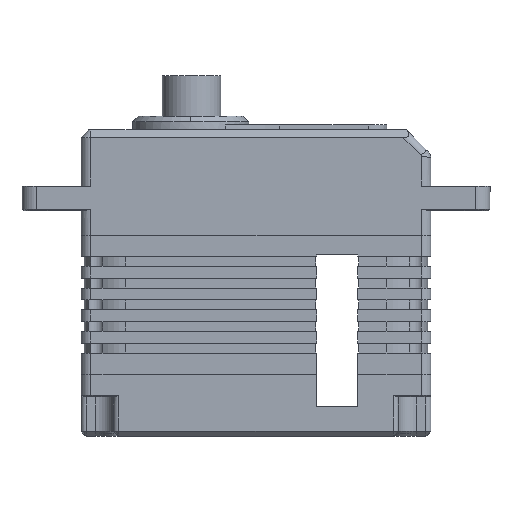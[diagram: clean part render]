
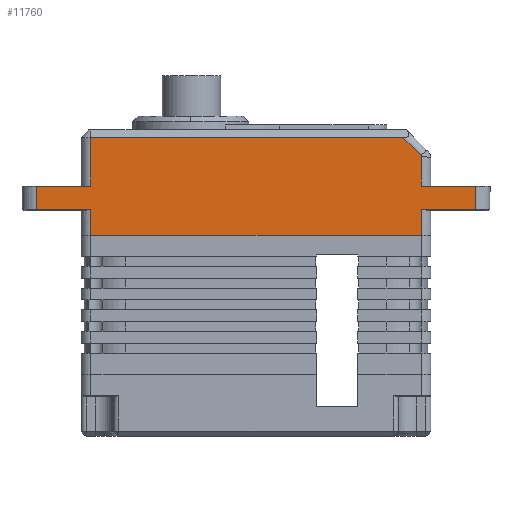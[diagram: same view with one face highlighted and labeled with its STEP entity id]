
A CAD part, front view. The second image highlights one B-rep face of the part: STEP entity #11760.
In plain terms, the highlighted planar face has unit normal (0, -1, 0).
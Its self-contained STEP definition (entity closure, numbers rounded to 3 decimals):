
#206 = LINE ( 'NONE', #1460, #6149 ) ;
#228 = ORIENTED_EDGE ( 'NONE', *, *, #12100, .F. ) ;
#496 = CARTESIAN_POINT ( 'NONE',  ( -1.2, -13.8, 4.35 ) ) ;
#825 = LINE ( 'NONE', #18666, #12551 ) ;
#881 = CARTESIAN_POINT ( 'NONE',  ( -1.2, -13.8, 6.7 ) ) ;
#1036 = LINE ( 'NONE', #3179, #16184 ) ;
#1460 = CARTESIAN_POINT ( 'NONE',  ( -0.2, -13.8, 1.7 ) ) ;
#1669 = VERTEX_POINT ( 'NONE', #15306 ) ;
#1699 = AXIS2_PLACEMENT_3D ( 'NONE', #3877, #6621, #14143 ) ;
#1993 = CARTESIAN_POINT ( 'NONE',  ( 33.3, -13.8, 6.7 ) ) ;
#2281 = DIRECTION ( 'NONE',  ( 0.707, 0., -0.707 ) ) ;
#2294 = LINE ( 'NONE', #3989, #13559 ) ;
#2938 = LINE ( 'NONE', #5233, #18475 ) ;
#3075 = DIRECTION ( 'NONE',  ( 0., 0., 1. ) ) ;
#3087 = VERTEX_POINT ( 'NONE', #13032 ) ;
#3179 = CARTESIAN_POINT ( 'NONE',  ( -1.2, -13.8, 6.7 ) ) ;
#3515 = VECTOR ( 'NONE', #2281, 1000. ) ;
#3694 = CARTESIAN_POINT ( 'NONE',  ( 31.469, -13.8, 11.6 ) ) ;
#3877 = CARTESIAN_POINT ( 'NONE',  ( -1.2, -13.8, 1.7 ) ) ;
#3913 = LINE ( 'NONE', #13446, #11988 ) ;
#3919 = EDGE_CURVE ( 'NONE', #15783, #17737, #206, .T. ) ;
#3989 = CARTESIAN_POINT ( 'NONE',  ( -1.2, -13.8, 11.6 ) ) ;
#4069 = DIRECTION ( 'NONE',  ( 0., 0., -1. ) ) ;
#4097 = DIRECTION ( 'NONE',  ( 0., 0., 1. ) ) ;
#4558 = EDGE_CURVE ( 'NONE', #16882, #10774, #18011, .T. ) ;
#4583 = EDGE_CURVE ( 'NONE', #14665, #15433, #825, .T. ) ;
#4607 = VERTEX_POINT ( 'NONE', #18470 ) ;
#4644 = DIRECTION ( 'NONE',  ( -1., 0., 0. ) ) ;
#5156 = VERTEX_POINT ( 'NONE', #1993 ) ;
#5233 = CARTESIAN_POINT ( 'NONE',  ( 38.8, -13.8, 1.7 ) ) ;
#5343 = LINE ( 'NONE', #3694, #3515 ) ;
#5547 = ORIENTED_EDGE ( 'NONE', *, *, #13418, .F. ) ;
#5561 = CARTESIAN_POINT ( 'NONE',  ( 33.3, -13.8, 1.7 ) ) ;
#5635 = VECTOR ( 'NONE', #14228, 1000. ) ;
#5795 = CARTESIAN_POINT ( 'NONE',  ( 38.8, -13.8, 4.35 ) ) ;
#6149 = VECTOR ( 'NONE', #3075, 1000. ) ;
#6332 = ORIENTED_EDGE ( 'NONE', *, *, #13331, .F. ) ;
#6621 = DIRECTION ( 'NONE',  ( 0., 1., 0. ) ) ;
#6672 = DIRECTION ( 'NONE',  ( 0., 0., -1. ) ) ;
#6829 = ORIENTED_EDGE ( 'NONE', *, *, #4558, .F. ) ;
#6883 = LINE ( 'NONE', #5561, #18807 ) ;
#8175 = VECTOR ( 'NONE', #15880, 1000. ) ;
#8464 = VERTEX_POINT ( 'NONE', #5795 ) ;
#8484 = ORIENTED_EDGE ( 'NONE', *, *, #13783, .F. ) ;
#8671 = ORIENTED_EDGE ( 'NONE', *, *, #13967, .F. ) ;
#8761 = CARTESIAN_POINT ( 'NONE',  ( -1.2, -13.8, 1.7 ) ) ;
#8966 = EDGE_CURVE ( 'NONE', #17737, #3087, #2294, .T. ) ;
#9263 = ORIENTED_EDGE ( 'NONE', *, *, #3919, .F. ) ;
#9588 = ORIENTED_EDGE ( 'NONE', *, *, #17947, .F. ) ;
#10313 = ORIENTED_EDGE ( 'NONE', *, *, #16835, .F. ) ;
#10514 = CARTESIAN_POINT ( 'NONE',  ( 33.3, -13.8, 1.7 ) ) ;
#10774 = VERTEX_POINT ( 'NONE', #11054 ) ;
#10874 = DIRECTION ( 'NONE',  ( -1., 0., 0. ) ) ;
#11054 = CARTESIAN_POINT ( 'NONE',  ( -5.7, -13.8, 6.7 ) ) ;
#11059 = DIRECTION ( 'NONE',  ( 1., 0., 0. ) ) ;
#11193 = PLANE ( 'NONE',  #1699 ) ;
#11303 = LINE ( 'NONE', #496, #12023 ) ;
#11493 = ORIENTED_EDGE ( 'NONE', *, *, #13931, .F. ) ;
#11633 = VERTEX_POINT ( 'NONE', #17963 ) ;
#11760 = ADVANCED_FACE ( 'NONE', ( #18908 ), #11193, .F. ) ;
#11832 = ORIENTED_EDGE ( 'NONE', *, *, #8966, .F. ) ;
#11988 = VECTOR ( 'NONE', #4644, 1000. ) ;
#12023 = VECTOR ( 'NONE', #10874, 1000. ) ;
#12067 = LINE ( 'NONE', #881, #5635 ) ;
#12100 = EDGE_CURVE ( 'NONE', #10774, #15783, #1036, .T. ) ;
#12551 = VECTOR ( 'NONE', #4097, 1000. ) ;
#12861 = CARTESIAN_POINT ( 'NONE',  ( -5.7, -13.8, 1.7 ) ) ;
#13032 = CARTESIAN_POINT ( 'NONE',  ( 31.469, -13.8, 11.6 ) ) ;
#13331 = EDGE_CURVE ( 'NONE', #15433, #16882, #11303, .T. ) ;
#13418 = EDGE_CURVE ( 'NONE', #3087, #11633, #5343, .T. ) ;
#13446 = CARTESIAN_POINT ( 'NONE',  ( -1.2, -13.8, 4.35 ) ) ;
#13559 = VECTOR ( 'NONE', #11059, 1000. ) ;
#13632 = CARTESIAN_POINT ( 'NONE',  ( -0.2, -13.8, 6.7 ) ) ;
#13783 = EDGE_CURVE ( 'NONE', #8464, #1669, #3913, .T. ) ;
#13821 = CARTESIAN_POINT ( 'NONE',  ( -5.7, -13.8, 4.35 ) ) ;
#13931 = EDGE_CURVE ( 'NONE', #1669, #16681, #16089, .T. ) ;
#13967 = EDGE_CURVE ( 'NONE', #11633, #5156, #6883, .T. ) ;
#14032 = VECTOR ( 'NONE', #4069, 1000. ) ;
#14143 = DIRECTION ( 'NONE',  ( 0., 0., 1. ) ) ;
#14228 = DIRECTION ( 'NONE',  ( 1., 0., 0. ) ) ;
#14665 = VERTEX_POINT ( 'NONE', #16225 ) ;
#14900 = EDGE_LOOP ( 'NONE', ( #5547, #11832, #9263, #228, #6829, #6332, #15764, #17570, #11493, #8484, #10313, #9588, #8671 ) ) ;
#15306 = CARTESIAN_POINT ( 'NONE',  ( 33.3, -13.8, 4.35 ) ) ;
#15433 = VERTEX_POINT ( 'NONE', #16941 ) ;
#15607 = CARTESIAN_POINT ( 'NONE',  ( 33.3, -13.8, 1.7 ) ) ;
#15764 = ORIENTED_EDGE ( 'NONE', *, *, #4583, .F. ) ;
#15783 = VERTEX_POINT ( 'NONE', #13632 ) ;
#15791 = DIRECTION ( 'NONE',  ( 0., 0., 1. ) ) ;
#15880 = DIRECTION ( 'NONE',  ( -1., 0., 0. ) ) ;
#16089 = LINE ( 'NONE', #15607, #14032 ) ;
#16184 = VECTOR ( 'NONE', #17888, 1000. ) ;
#16225 = CARTESIAN_POINT ( 'NONE',  ( -0.2, -13.8, 1.7 ) ) ;
#16439 = VECTOR ( 'NONE', #15791, 1000. ) ;
#16484 = EDGE_CURVE ( 'NONE', #16681, #14665, #16665, .T. ) ;
#16665 = LINE ( 'NONE', #8761, #8175 ) ;
#16681 = VERTEX_POINT ( 'NONE', #10514 ) ;
#16835 = EDGE_CURVE ( 'NONE', #4607, #8464, #2938, .T. ) ;
#16882 = VERTEX_POINT ( 'NONE', #13821 ) ;
#16941 = CARTESIAN_POINT ( 'NONE',  ( -0.2, -13.8, 4.35 ) ) ;
#17570 = ORIENTED_EDGE ( 'NONE', *, *, #16484, .F. ) ;
#17692 = CARTESIAN_POINT ( 'NONE',  ( -0.2, -13.8, 11.6 ) ) ;
#17737 = VERTEX_POINT ( 'NONE', #17692 ) ;
#17888 = DIRECTION ( 'NONE',  ( 1., 0., 0. ) ) ;
#17947 = EDGE_CURVE ( 'NONE', #5156, #4607, #12067, .T. ) ;
#17963 = CARTESIAN_POINT ( 'NONE',  ( 33.3, -13.8, 9.769 ) ) ;
#18011 = LINE ( 'NONE', #12861, #16439 ) ;
#18470 = CARTESIAN_POINT ( 'NONE',  ( 38.8, -13.8, 6.7 ) ) ;
#18475 = VECTOR ( 'NONE', #6672, 1000. ) ;
#18666 = CARTESIAN_POINT ( 'NONE',  ( -0.2, -13.8, 1.7 ) ) ;
#18710 = DIRECTION ( 'NONE',  ( 0., 0., -1. ) ) ;
#18807 = VECTOR ( 'NONE', #18710, 1000. ) ;
#18908 = FACE_OUTER_BOUND ( 'NONE', #14900, .T. ) ;
